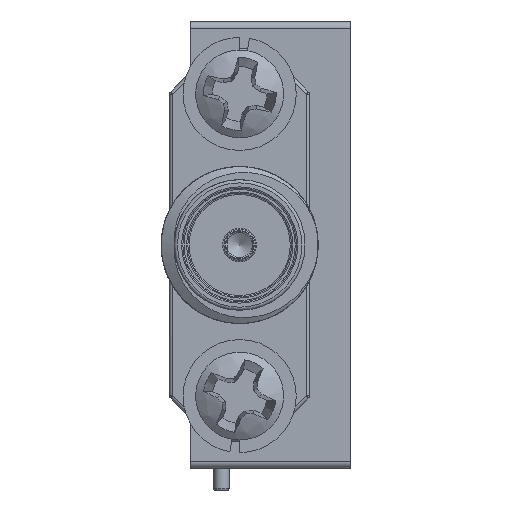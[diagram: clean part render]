
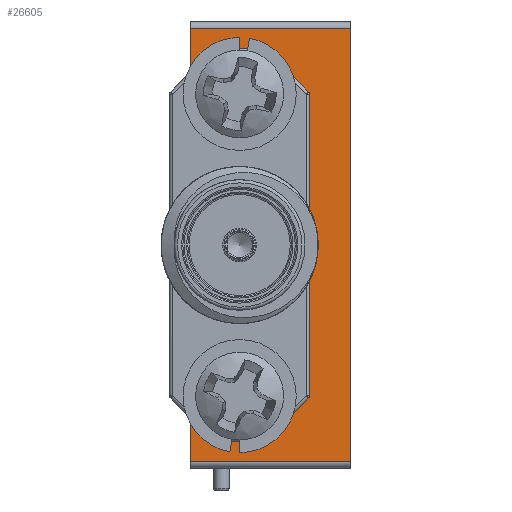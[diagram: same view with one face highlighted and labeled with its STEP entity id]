
A CAD part, left-side view. The second image highlights one B-rep face of the part: STEP entity #26605.
In plain terms, the highlighted planar face has unit normal (-1, 0, 0).
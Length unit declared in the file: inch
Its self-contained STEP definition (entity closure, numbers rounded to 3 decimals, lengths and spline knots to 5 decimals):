
#1076 = FACE_BOUND ( 'NONE', #29820, .T. ) ;
#1355 = ORIENTED_EDGE ( 'NONE', *, *, #32610, .F. ) ;
#2425 = CARTESIAN_POINT ( 'NONE',  ( 35.16517, 39.90139, 42.23478 ) ) ;
#2549 = CIRCLE ( 'NONE', #34296, 0.0525 ) ;
#2873 = VECTOR ( 'NONE', #13025, 39.37008 ) ;
#4038 = CARTESIAN_POINT ( 'NONE',  ( 35.16517, 39.79439, 42.07178 ) ) ;
#4180 = CARTESIAN_POINT ( 'NONE',  ( 35.16517, 39.90139, 42.23478 ) ) ;
#4335 = CARTESIAN_POINT ( 'NONE',  ( 35.16517, 39.97339, 42.70928 ) ) ;
#4338 = VERTEX_POINT ( 'NONE', #4038 ) ;
#4459 = DIRECTION ( 'NONE',  ( 0., 0., 1. ) ) ;
#4807 = PLANE ( 'NONE',  #22328 ) ;
#5173 = CARTESIAN_POINT ( 'NONE',  ( 35.16517, 39.90139, 42.59878 ) ) ;
#5975 = EDGE_CURVE ( 'NONE', #35383, #22982, #42142, .T. ) ;
#6431 = VERTEX_POINT ( 'NONE', #19608 ) ;
#7279 = VERTEX_POINT ( 'NONE', #20711 ) ;
#7657 = ORIENTED_EDGE ( 'NONE', *, *, #19048, .T. ) ;
#7720 = LINE ( 'NONE', #5173, #35405 ) ;
#7898 = CARTESIAN_POINT ( 'NONE',  ( 35.16517, 39.90139, 42.59878 ) ) ;
#8976 = VERTEX_POINT ( 'NONE', #26901 ) ;
#9620 = DIRECTION ( 'NONE',  ( 0., 1., 0. ) ) ;
#9846 = LINE ( 'NONE', #2425, #12733 ) ;
#10127 = CARTESIAN_POINT ( 'NONE',  ( 35.16517, 39.97339, 42.22828 ) ) ;
#11282 = CARTESIAN_POINT ( 'NONE',  ( 35.16517, 40.04939, 42.06178 ) ) ;
#11525 = FACE_OUTER_BOUND ( 'NONE', #38864, .T. ) ;
#12166 = DIRECTION ( 'NONE',  ( 0., 0., 1. ) ) ;
#12733 = VECTOR ( 'NONE', #9620, 39.37008 ) ;
#13025 = DIRECTION ( 'NONE',  ( 0., -1., 0. ) ) ;
#13939 = EDGE_CURVE ( 'NONE', #6431, #8976, #45111, .T. ) ;
#15058 = VERTEX_POINT ( 'NONE', #4180 ) ;
#16325 = VERTEX_POINT ( 'NONE', #39174 ) ;
#16510 = DIRECTION ( 'NONE',  ( 0., 0., 1. ) ) ;
#17145 = DIRECTION ( 'NONE',  ( 0., 0., 1. ) ) ;
#17317 = CARTESIAN_POINT ( 'NONE',  ( 35.16517, 40.04939, 42.06178 ) ) ;
#17751 = DIRECTION ( 'NONE',  ( 0., 0., 1. ) ) ;
#17895 = ORIENTED_EDGE ( 'NONE', *, *, #13939, .T. ) ;
#19048 = EDGE_CURVE ( 'NONE', #4338, #6431, #45919, .T. ) ;
#19608 = CARTESIAN_POINT ( 'NONE',  ( 35.16517, 39.79439, 42.76178 ) ) ;
#20711 = CARTESIAN_POINT ( 'NONE',  ( 35.16517, 39.90139, 42.59878 ) ) ;
#21747 = VECTOR ( 'NONE', #17751, 39.37008 ) ;
#22146 = VECTOR ( 'NONE', #36123, 39.37008 ) ;
#22328 = AXIS2_PLACEMENT_3D ( 'NONE', #11282, #43325, #25635 ) ;
#22982 = VERTEX_POINT ( 'NONE', #27490 ) ;
#23557 = ORIENTED_EDGE ( 'NONE', *, *, #33094, .T. ) ;
#23924 = CARTESIAN_POINT ( 'NONE',  ( 35.16517, 40.04939, 42.07178 ) ) ;
#24278 = VERTEX_POINT ( 'NONE', #10127 ) ;
#25635 = DIRECTION ( 'NONE',  ( 0., 0., -1. ) ) ;
#26049 = EDGE_CURVE ( 'NONE', #16325, #8976, #32423, .T. ) ;
#26411 = DIRECTION ( 'NONE',  ( 0., 0., 1. ) ) ;
#26490 = CIRCLE ( 'NONE', #38328, 0.0525 ) ;
#26605 = ADVANCED_FACE ( 'NONE', ( #11525, #1076, #39539 ), #4807, .F. ) ;
#26901 = CARTESIAN_POINT ( 'NONE',  ( 35.16517, 40.04939, 42.76178 ) ) ;
#27490 = CARTESIAN_POINT ( 'NONE',  ( 35.16517, 40.04939, 42.23478 ) ) ;
#27840 = ORIENTED_EDGE ( 'NONE', *, *, #37804, .F. ) ;
#28019 = VECTOR ( 'NONE', #17145, 39.37008 ) ;
#28489 = EDGE_CURVE ( 'NONE', #15058, #22982, #9846, .T. ) ;
#28569 = ORIENTED_EDGE ( 'NONE', *, *, #28489, .T. ) ;
#28867 = VERTEX_POINT ( 'NONE', #4335 ) ;
#29413 = ORIENTED_EDGE ( 'NONE', *, *, #38913, .F. ) ;
#29516 = VECTOR ( 'NONE', #38079, 39.37008 ) ;
#29716 = EDGE_CURVE ( 'NONE', #24278, #24278, #2549, .T. ) ;
#29820 = EDGE_LOOP ( 'NONE', ( #35122 ) ) ;
#29858 = CARTESIAN_POINT ( 'NONE',  ( 35.16517, 39.97339, 42.17578 ) ) ;
#30850 = CARTESIAN_POINT ( 'NONE',  ( 35.16517, 40.04939, 42.76178 ) ) ;
#31775 = VECTOR ( 'NONE', #4459, 39.37008 ) ;
#32174 = LINE ( 'NONE', #7898, #22146 ) ;
#32423 = LINE ( 'NONE', #39900, #31775 ) ;
#32610 = EDGE_CURVE ( 'NONE', #7279, #16325, #32174, .T. ) ;
#33094 = EDGE_CURVE ( 'NONE', #35383, #4338, #45515, .T. ) ;
#34296 = AXIS2_PLACEMENT_3D ( 'NONE', #29858, #44101, #26411 ) ;
#34492 = CARTESIAN_POINT ( 'NONE',  ( 35.16517, 40.04939, 42.07178 ) ) ;
#35122 = ORIENTED_EDGE ( 'NONE', *, *, #29716, .F. ) ;
#35383 = VERTEX_POINT ( 'NONE', #23924 ) ;
#35405 = VECTOR ( 'NONE', #16510, 39.37008 ) ;
#36123 = DIRECTION ( 'NONE',  ( 0., 1., 0. ) ) ;
#37804 = EDGE_CURVE ( 'NONE', #28867, #28867, #26490, .T. ) ;
#38079 = DIRECTION ( 'NONE',  ( 0., 1., 0. ) ) ;
#38328 = AXIS2_PLACEMENT_3D ( 'NONE', #41363, #43974, #12166 ) ;
#38654 = CARTESIAN_POINT ( 'NONE',  ( 35.16517, 39.79439, 42.06178 ) ) ;
#38864 = EDGE_LOOP ( 'NONE', ( #7657, #17895, #40879, #1355, #29413, #28569, #39673, #23557 ) ) ;
#38913 = EDGE_CURVE ( 'NONE', #15058, #7279, #7720, .T. ) ;
#39174 = CARTESIAN_POINT ( 'NONE',  ( 35.16517, 40.04939, 42.59878 ) ) ;
#39539 = FACE_BOUND ( 'NONE', #44516, .T. ) ;
#39673 = ORIENTED_EDGE ( 'NONE', *, *, #5975, .F. ) ;
#39900 = CARTESIAN_POINT ( 'NONE',  ( 35.16517, 40.04939, 42.06178 ) ) ;
#40879 = ORIENTED_EDGE ( 'NONE', *, *, #26049, .F. ) ;
#41363 = CARTESIAN_POINT ( 'NONE',  ( 35.16517, 39.97339, 42.65678 ) ) ;
#42142 = LINE ( 'NONE', #17317, #21747 ) ;
#43325 = DIRECTION ( 'NONE',  ( 1., 0., 0. ) ) ;
#43974 = DIRECTION ( 'NONE',  ( -1., 0., 0. ) ) ;
#44101 = DIRECTION ( 'NONE',  ( -1., 0., 0. ) ) ;
#44516 = EDGE_LOOP ( 'NONE', ( #27840 ) ) ;
#45111 = LINE ( 'NONE', #30850, #29516 ) ;
#45515 = LINE ( 'NONE', #34492, #2873 ) ;
#45919 = LINE ( 'NONE', #38654, #28019 ) ;
